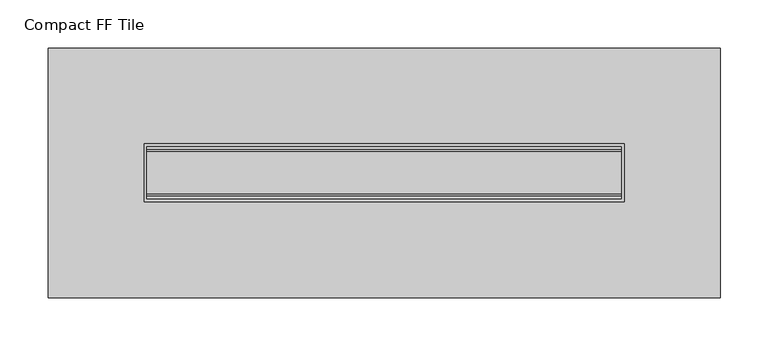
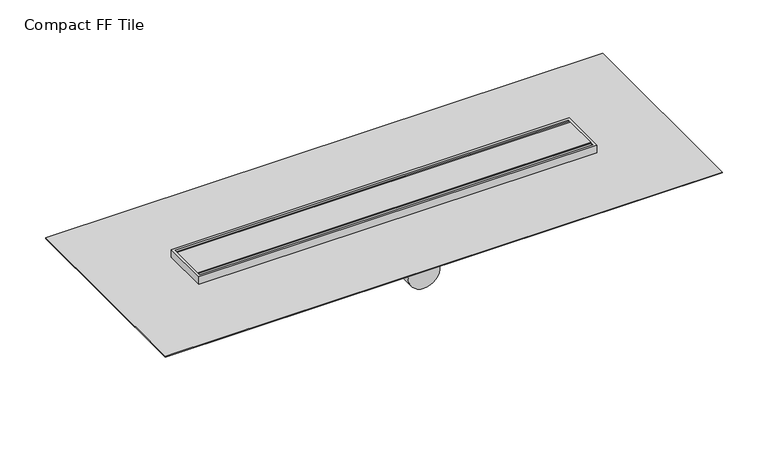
"""IFC4 building model written with IfcOpenShell, lengths in millimetres: sanitary terminal geometry, NLRS_PF_52_UN_Compact Tile_Easydrain : Compact FF Tile."""

import ifcopenshell
import ifcopenshell.guid

model = None  # the IFC model being written
_history = None  # IfcOwnerHistory: only IFC2X3 demands one
_inside = {}  # id of a spatial element -> (the spatial element, [elements in it])
_under = {}  # id of a project, library or spatial element -> (it, [spatial elements below it])
_declared = {}  # id of a project -> (the project, [libraries it declares])
_typed = {}  # id of a type object -> (the type object, [elements of that type])
_made_of = {}  # id of a material, layer set ... -> (it, [elements and type objects made of it])


def new_model(schema):
    """Start an empty IFC model of exactly this schema.

    Asked for "IFC4X3", IfcOpenShell would pick the latest addendum, in which some entities
    have other attributes; the version numbers below select the first issue.
    IFC2X3 requires an IfcOwnerHistory on every rooted entity: one is made here for all.
    """
    global model, _history
    if schema == "IFC4X3":
        model = ifcopenshell.file(schema_version=(4, 3, 0, 0))
    else:
        model = ifcopenshell.file(schema=schema)
    _inside.clear()
    _under.clear()
    _declared.clear()
    _typed.clear()
    _made_of.clear()
    _history = None
    if model.schema == "IFC2X3":
        org = make("IfcOrganization", Name="unknown")
        user = make(
            "IfcPersonAndOrganization",
            ThePerson=make("IfcPerson", FamilyName="unknown"),
            TheOrganization=org,
        )
        app = make(
            "IfcApplication",
            ApplicationDeveloper=org,
            Version="unknown",
            ApplicationFullName="unknown",
            ApplicationIdentifier="unknown",
        )
        _history = make(
            "IfcOwnerHistory",
            OwningUser=user,
            OwningApplication=app,
            ChangeAction="ADDED",
            CreationDate=0,
        )
    return model


def make(cls, **values):
    """One entity of the class cls with the attributes given. An attribute that is None is left unset."""
    return model.create_entity(
        cls, **{name: value for name, value in values.items() if value is not None}
    )


def rooted(cls, **values):
    """An entity with a GlobalId (a new one), such as an element, a storey or a relation."""
    return make(cls, GlobalId=ifcopenshell.guid.new(), OwnerHistory=_history, **values)


def si_unit(unit_type, name, prefix=None):
    """IfcSIUnit, for example si_unit("LENGTHUNIT", "METRE", prefix="MILLI")."""
    return make("IfcSIUnit", UnitType=unit_type, Prefix=prefix, Name=name)


def assignment(units):
    """IfcUnitAssignment: the units of a project."""
    return None if units is None else make("IfcUnitAssignment", Units=units)


def point(xyz):
    """IfcCartesianPoint."""
    return None if xyz is None else make("IfcCartesianPoint", Coordinates=xyz)


def direction(xyz):
    """IfcDirection."""
    return None if xyz is None else make("IfcDirection", DirectionRatios=xyz)


def frame(location, z_axis=None, x_axis=None):
    """IfcAxis2Placement3D, a coordinate frame: its origin and axes. An axis left out is left unset."""
    return make(
        "IfcAxis2Placement3D",
        Location=point(location),
        Axis=direction(z_axis),
        RefDirection=direction(x_axis),
    )


def frame_2d(location, x_axis=None):
    """IfcAxis2Placement2D, a coordinate frame in the plane: its origin and x axis."""
    return make(
        "IfcAxis2Placement2D", Location=point(location), RefDirection=direction(x_axis)
    )


def origin():
    """The frame at (0, 0, 0) with its axes left unset."""
    return frame((0.0, 0.0, 0.0))


def place(relative_to, where):
    """IfcLocalPlacement: puts the frame where relative to a parent placement (None: the world)."""
    return make(
        "IfcLocalPlacement", PlacementRelTo=relative_to, RelativePlacement=where
    )


def context(
    kind, dimensions, precision=None, world=None, true_north=None, identifier=None
):
    """IfcGeometricRepresentationContext, for example the 3D "Model" context."""
    return make(
        "IfcGeometricRepresentationContext",
        ContextIdentifier=identifier,
        ContextType=kind,
        CoordinateSpaceDimension=dimensions,
        Precision=precision,
        WorldCoordinateSystem=world,
        TrueNorth=true_north,
    )


def project(units=None, contexts=None):
    """IfcProject with its units and contexts."""
    return rooted(
        "IfcProject",
        Name="project",
        RepresentationContexts=contexts,
        UnitsInContext=assignment(units),
    )


def spatial(cls, under=None, at=None, **own):
    """A site, building, storey or space (cls), placed at a placement, below another one or the project."""
    s = rooted(cls, ObjectPlacement=at, **own)
    if under is not None:
        _under.setdefault(under.id(), (under, []))[1].append(s)
    return s


def polyline(points):
    """IfcPolyline through the points."""
    return make("IfcPolyline", Points=[point(p) for p in points])


def circle_curve(where, radius):
    """IfcCircle in the frame where."""
    return make("IfcCircle", Position=where, Radius=radius)


def trimmed(basis, trim1, trim2, sense, master):
    """IfcTrimmedCurve: the piece of a basis curve between two trims."""
    return make(
        "IfcTrimmedCurve",
        BasisCurve=basis,
        Trim1=trim1,
        Trim2=trim2,
        SenseAgreement=sense,
        MasterRepresentation=master,
    )


def segment(curve, same_sense, transition):
    """IfcCompositeCurveSegment."""
    return make(
        "IfcCompositeCurveSegment",
        Transition=transition,
        SameSense=same_sense,
        ParentCurve=curve,
    )


def composite_curve(segments, self_intersect=None):
    """IfcCompositeCurve: segments joined end to end."""
    return make("IfcCompositeCurve", Segments=segments, SelfIntersect=self_intersect)


def outline(outer, holes=None, kind="AREA"):
    """IfcArbitraryClosedProfileDef: a profile drawn as a closed curve; with holes, ...WithVoids."""
    if holes is None:
        return make("IfcArbitraryClosedProfileDef", ProfileType=kind, OuterCurve=outer)
    return make(
        "IfcArbitraryProfileDefWithVoids",
        ProfileType=kind,
        OuterCurve=outer,
        InnerCurves=holes,
    )


def extrude(swept, where, along, depth):
    """IfcExtrudedAreaSolid: the profile swept, set in the frame where, extruded along a direction by depth."""
    return make(
        "IfcExtrudedAreaSolid",
        SweptArea=swept,
        Position=where,
        ExtrudedDirection=direction(along),
        Depth=depth,
    )


def shape(context_of_items, identifier, shape_type, items):
    """IfcShapeRepresentation: the items that make up one representation, for example the "Body"."""
    return make(
        "IfcShapeRepresentation",
        ContextOfItems=context_of_items,
        RepresentationIdentifier=identifier,
        RepresentationType=shape_type,
        Items=items,
    )


def source(mapping_origin, context_of_items, identifier, shape_type, items):
    """IfcRepresentationMap: a shape defined once, which mapped items show again and again."""
    return make(
        "IfcRepresentationMap",
        MappingOrigin=mapping_origin,
        MappedRepresentation=shape(context_of_items, identifier, shape_type, items),
    )


def transform(
    local_origin,
    x_axis=None,
    y_axis=None,
    z_axis=None,
    scale=None,
    scale2=None,
    scale3=None,
    uniform=True,
):
    """IfcCartesianTransformationOperator3D, or its non-uniform kind. x_axis, y_axis, z_axis: its Axis1, 2, 3."""
    if uniform:
        return make(
            "IfcCartesianTransformationOperator3D",
            Axis1=direction(x_axis),
            Axis2=direction(y_axis),
            LocalOrigin=point(local_origin),
            Scale=scale,
            Axis3=direction(z_axis),
        )
    return make(
        "IfcCartesianTransformationOperator3DnonUniform",
        Axis1=direction(x_axis),
        Axis2=direction(y_axis),
        LocalOrigin=point(local_origin),
        Scale=scale,
        Axis3=direction(z_axis),
        Scale2=scale2,
        Scale3=scale3,
    )


def mapped(mapping_source, mapping_target):
    """IfcMappedItem: shows the shape of a source again, moved by a transform."""
    return make(
        "IfcMappedItem", MappingSource=mapping_source, MappingTarget=mapping_target
    )


def made_of(thing, what):
    """Note that an element or type object is made of a material, layer set ...; save() writes the relation."""
    if what is not None:
        _made_of.setdefault(what.id(), (what, []))[1].append(thing)
    return thing


def element(
    cls,
    number,
    at=None,
    inside=None,
    cuts=None,
    type_object=None,
    material=None,
    context=None,
    identifier="Body",
    shape_type=None,
    held_by="IfcProductDefinitionShape",
    body=None,
    shapes=None,
    **own,
):
    """One element of the class cls, such as IfcWall. Its Tag is "e" and its number.

    at: its placement. inside: the storey or other place that contains it. cuts: it is an
    opening in that element (IfcRelVoidsElement). A single representation is given by context,
    identifier, shape_type and body (its items); several are given by shapes. held_by: the class
    of the entity that holds the representations. save() writes the other relations.
    """
    e = rooted(cls, Tag="e%d" % number, ObjectPlacement=at, **own)
    if body is not None:
        shapes = [shape(context, identifier, shape_type, body)]
    if shapes is not None:
        e.Representation = make(held_by, Representations=shapes)
    if inside is not None:
        _inside.setdefault(inside.id(), (inside, []))[1].append(e)
    if cuts is not None:
        rooted(
            "IfcRelVoidsElement", RelatingBuildingElement=cuts, RelatedOpeningElement=e
        )
    if type_object is not None:
        _typed.setdefault(type_object.id(), (type_object, []))[1].append(e)
    return made_of(e, material)


def aggregate(whole, parts):
    """IfcRelAggregates: a whole, such as a stair, and the parts it consists of."""
    return rooted("IfcRelAggregates", RelatingObject=whole, RelatedObjects=parts)


def save(model, path):
    """Write the relations noted so far, then the file.

    IfcRelAggregates (storeys below a building ...), IfcRelContainedInSpatialStructure (elements
    in a storey), IfcRelDefinesByType, IfcRelAssociatesMaterial and IfcRelDeclares: one each for
    every whole, place, type object, material and project.
    """
    for whole, parts in _under.values():
        aggregate(whole, parts)
    for where, things in _inside.values():
        rooted(
            "IfcRelContainedInSpatialStructure",
            RelatedElements=things,
            RelatingStructure=where,
        )
    for kind, things in _typed.values():
        rooted("IfcRelDefinesByType", RelatedObjects=things, RelatingType=kind)
    for what, things in _made_of.values():
        rooted("IfcRelAssociatesMaterial", RelatedObjects=things, RelatingMaterial=what)
    for by, libraries in _declared.values():
        rooted("IfcRelDeclares", RelatingContext=by, RelatedDefinitions=libraries)
    model.write(path)


def plane_surface(at):
    """IfcPlane: the flat surface through the origin of the frame at, square to its z axis."""
    return make("IfcPlane", Position=at)


def cylinder_surface(at, radius):
    """IfcCylindricalSurface: all points at the distance radius from the z axis of the frame at."""
    return make("IfcCylindricalSurface", Position=at, Radius=radius)


def advanced_brep(points, edges, surfaces, faces):
    """IfcAdvancedBrep: a solid bounded by faces that lie on surfaces and meet in shared edges.

    An edge is (start, end): straight between two places in points (the first is 0);
    or (start, end, curve); or (start, end, curve, False) where it runs against its curve.
    A face is (place in surfaces, loops), or (place, loops, False) where it looks against
    its surface's normal. A loop lists edges by number (the first is 1), with a minus sign
    where the edge is run from its end to its start. The first loop is the outer one.
    """
    corners = [point(p) for p in points]
    vertices = [make("IfcVertexPoint", VertexGeometry=c) for c in corners]
    made = []
    for start, end, *more in edges:
        made.append(
            make(
                "IfcEdgeCurve",
                EdgeStart=vertices[start],
                EdgeEnd=vertices[end],
                EdgeGeometry=more[0] if more else make("IfcPolyline", Points=[corners[start], corners[end]]),
                SameSense=more[1] if len(more) > 1 else True,
            )
        )
    hull = []
    for where, loops, *sense in faces:
        bounds = []
        for j, loop in enumerate(loops):
            ring = [make("IfcOrientedEdge", EdgeElement=made[abs(k) - 1], Orientation=k > 0) for k in loop]
            bounds.append(
                make(
                    "IfcFaceOuterBound" if j == 0 else "IfcFaceBound",
                    Bound=make("IfcEdgeLoop", EdgeList=ring),
                    Orientation=True,
                )
            )
        hull.append(make("IfcAdvancedFace", Bounds=bounds, FaceSurface=surfaces[where], SameSense=sense[0] if sense else True))
    return make("IfcAdvancedBrep", Outer=make("IfcClosedShell", CfsFaces=hull))


def compact_ff_tile_d9a49791(model_context):
    return source(origin(), model_context, "Body", "SolidModel", [
        extrude(outline(polyline([(247.0, 22.0), (247.0, -22.0), (-247.0, -22.0), (-247.0, 22.0), (247.0, 22.0)])), frame((0.0, 0.0, -12.0), z_axis=(0.0, 0.0, 1.0), x_axis=(1.0, 0.0, 0.0)), (0.0, 0.0, 1.0), 12.0),
        extrude(outline(polyline([(247.0, 24.0), (247.0, 22.0), (-247.0, 22.0), (-247.0, 24.0), (247.0, 24.0)])), frame((0.0, 0.0, -12.0), z_axis=(0.0, 0.0, 1.0), x_axis=(1.0, 0.0, 0.0)), (0.0, 0.0, 1.0), 12.0),
        extrude(outline(polyline([(247.0, -24.0), (-247.0, -24.0), (-247.0, -22.0), (247.0, -22.0), (247.0, -24.0)])), frame((0.0, 0.0, -12.0), z_axis=(0.0, 0.0, 1.0), x_axis=(1.0, 0.0, 0.0)), (0.0, 0.0, 1.0), 12.0),
        extrude(outline(composite_curve([segment(trimmed(circle_curve(frame_2d((-210.0, 0.0)), 20.0), [point((-230.0, 0.0))], [point((-190.0, 0.0))], False, "CARTESIAN"), True, "CONTINUOUS"), segment(trimmed(circle_curve(frame_2d((-210.0, 0.0)), 20.0), [point((-190.0, 0.0))], [point((-230.0, 0.0))], False, "CARTESIAN"), True, "CONTINUOUS")], self_intersect=False)), frame((0.0, 0.0, -73.0), z_axis=(0.0, 0.0, 1.0), x_axis=(1.0, 0.0, 0.0)), (0.0, 0.0, 1.0), 55.0),
        extrude(outline(composite_curve([segment(trimmed(circle_curve(frame_2d((210.0, 0.0)), 20.0), [point((190.0, 0.0))], [point((230.0, 0.0))], False, "CARTESIAN"), True, "CONTINUOUS"), segment(trimmed(circle_curve(frame_2d((210.0, 0.0)), 20.0), [point((230.0, 0.0))], [point((190.0, 0.0))], False, "CARTESIAN"), True, "CONTINUOUS")], self_intersect=False)), frame((0.0, 0.0, -73.0), z_axis=(0.0, 0.0, 1.0), x_axis=(1.0, 0.0, 0.0)), (0.0, 0.0, 1.0), 55.0),
        extrude(outline(polyline([(350.0, 130.0), (350.0, -130.0), (-350.0, -130.0), (-350.0, 130.0), (350.0, 130.0)]), holes=[polyline([(250.0, 30.0), (-250.0, 30.0), (-250.0, -30.0), (250.0, -30.0), (250.0, 30.0)])]), frame((0.0, 0.0, -11.0), z_axis=(0.0, 0.0, 1.0), x_axis=(1.0, 0.0, 0.0)), (0.0, 0.0, 1.0), 1.0),
        advanced_brep(
        [(-250.0, -30.0, -28.0), (-110.0, -30.0, -30.0), (-110.0, -30.0, -73.0), (110.0, -30.0, -73.0), (110.0, -30.0, -30.0), (250.0, -30.0, -28.0), (250.0, -30.0, 0.0), (-250.0, -30.0, 0.0), (0.0, -30.0, -28.0), (0.0, -30.0, -68.0), (-250.0, 30.0, -28.0), (-250.0, 30.0, 0.0), (250.0, 30.0, 0.0), (250.0, 30.0, -28.0), (110.0, 30.0, -30.0), (110.0, 30.0, -73.0), (-110.0, 30.0, -73.0), (-110.0, 30.0, -30.0), (-247.0, 27.0, 0.0), (247.0, 27.0, 0.0), (247.0, -27.0, 0.0), (-247.0, -27.0, 0.0), (0.0, -86.9792871, -28.0), (0.0, -86.9792871, -68.0), (247.0, 27.0, -12.0), (-247.0, 27.0, -12.0), (-247.0, -27.0, -12.0), (247.0, -27.0, -12.0)],
        [
            (0, 1),
            (1, 2),
            (2, 3),
            (3, 4),
            (4, 5),
            (5, 6),
            (6, 7),
            (7, 0),
            (8, 9, circle_curve(frame((0.0, -30.0, -48.0), z_axis=(0.0, 1.0, 0.0), x_axis=(0.0, 0.0, -1.0)), 20.0)),
            (9, 8, circle_curve(frame((0.0, -30.0, -48.0), z_axis=(0.0, 1.0, 0.0), x_axis=(0.0, 0.0, -1.0)), 20.0)),
            (10, 11),
            (11, 12),
            (12, 13),
            (13, 14),
            (14, 15),
            (15, 16),
            (16, 17),
            (17, 10),
            (0, 10),
            (17, 1),
            (5, 13),
            (12, 6),
            (11, 7),
            (18, 19),
            (19, 20),
            (20, 21),
            (21, 18),
            (16, 2),
            (15, 3),
            (14, 4),
            (22, 23, circle_curve(frame((0.0, -86.9792871, -48.0), z_axis=(0.0, -1.0, 0.0), x_axis=(0.0, 0.0, -1.0)), 20.0)),
            (23, 22, circle_curve(frame((0.0, -86.9792871, -48.0), z_axis=(0.0, -1.0, 0.0), x_axis=(0.0, 0.0, -1.0)), 20.0)),
            (23, 9),
            (8, 22),
            (24, 25),
            (25, 26),
            (26, 27),
            (27, 24),
            (24, 19),
            (18, 25),
            (21, 26),
            (20, 27),
        ],
        [
            plane_surface(frame((-250.0, -30.0, -28.0), z_axis=(0.0, -1.0, 0.0), x_axis=(0.99989797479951, 0.0, -0.014284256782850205))),
            plane_surface(frame((-250.0, 30.0, -28.0), z_axis=(0.0, 1.0, 0.0), x_axis=(-0.99989797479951, 0.0, 0.014284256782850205))),
            plane_surface(frame((-250.0, -30.0, -28.0), z_axis=(-0.014284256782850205, 0.0, -0.99989797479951), x_axis=(0.0, 1.0, 0.0))),
            plane_surface(frame((250.0, -30.0, -28.0), z_axis=(1.0, 0.0, 0.0), x_axis=(0.0, 1.0, 0.0))),
            plane_surface(frame((250.0, -30.0, 0.0), z_axis=(0.0, 0.0, 1.0), x_axis=(0.0, 1.0, 0.0))),
            plane_surface(frame((-250.0, -30.0, 0.0), z_axis=(-1.0, 0.0, 0.0), x_axis=(0.0, 1.0, 0.0))),
            plane_surface(frame((-110.0, -30.0, -30.0), z_axis=(-1.0, 0.0, 0.0), x_axis=(0.0, 1.0, 0.0))),
            plane_surface(frame((-110.0, -30.0, -73.0), z_axis=(0.0, 0.0, -1.0), x_axis=(0.0, 1.0, 0.0))),
            plane_surface(frame((110.0, -30.0, -73.0), z_axis=(1.0, 0.0, 0.0), x_axis=(0.0, 1.0, 0.0))),
            plane_surface(frame((110.0, -30.0, -30.0), z_axis=(0.014284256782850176, 0.0, -0.99989797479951), x_axis=(0.0, 1.0, 0.0))),
            plane_surface(frame((0.0, -86.9792871, -48.0), z_axis=(0.0, -1.0, 0.0), x_axis=(1.0, 0.0, 0.0))),
            cylinder_surface(frame((0.0, 0.0, -48.0), z_axis=(0.0, 1.0, 0.0), x_axis=(0.0, 0.0, -1.0)), 20.0),
            plane_surface(frame((-247.0, 27.0, -12.0), z_axis=(0.0, 0.0, 1.0), x_axis=(1.0, 0.0, 0.0))),
            plane_surface(frame((247.0, 27.0, 10.0), z_axis=(0.0, -1.0, 0.0), x_axis=(0.0, 0.0, -1.0))),
            plane_surface(frame((-247.0, 27.0, 10.0), z_axis=(1.0, 0.0, 0.0), x_axis=(0.0, 0.0, -1.0))),
            plane_surface(frame((-247.0, -27.0, 10.0), z_axis=(0.0, 1.0, 0.0), x_axis=(0.0, 0.0, -1.0))),
            plane_surface(frame((247.0, -27.0, 10.0), z_axis=(-1.0, 0.0, 0.0), x_axis=(0.0, 0.0, -1.0))),
        ],
        [
            (0, [[1, 2, 3, 4, 5, 6, 7, 8], [9, 10]]),
            (1, [[11, 12, 13, 14, 15, 16, 17, 18]]),
            (2, [[-1, 19, -18, 20]]),
            (3, [[-6, 21, -13, 22]]),
            (4, [[-7, -22, -12, 23], [24, 25, 26, 27]]),
            (5, [[-8, -23, -11, -19]]),
            (6, [[-2, -20, -17, 28]]),
            (7, [[-3, -28, -16, 29]]),
            (8, [[-4, -29, -15, 30]]),
            (9, [[-5, -30, -14, -21]]),
            (10, [[31, 32]]),
            (11, [[-32, 33, -9, 34]]),
            (11, [[-31, -34, -10, -33]]),
            (12, [[35, 36, 37, 38]]),
            (13, [[-35, 39, -24, 40]]),
            (14, [[-36, -40, -27, 41]]),
            (15, [[-37, -41, -26, 42]]),
            (16, [[-38, -42, -25, -39]]),
        ],
    ),
    ])


if __name__ == "__main__":
    model = new_model("IFC4")
    model_context = context("Model", 3, world=origin())
    ifc_project = project(units=[si_unit("LENGTHUNIT", "METRE", prefix="MILLI")], contexts=[model_context])
    site = spatial("IfcSite", under=ifc_project)
    building = spatial("IfcBuilding", under=site)
    placement = place(None, origin())
    compact_ff_tile_shape = compact_ff_tile_d9a49791(model_context)
    element("IfcSanitaryTerminal", 1, ObjectType="NLRS_PF_52_UN_Compact Tile_Easydrain : Compact FF Tile", at=placement, inside=building, context=model_context, shape_type="MappedRepresentation", body=[
        mapped(compact_ff_tile_shape, transform((0.0, 0.0, 0.0), x_axis=(1.0, 0.0, 0.0), y_axis=(0.0, 1.0, 0.0), z_axis=(0.0, 0.0, 1.0))),
    ])
    save(model, "model.ifc")
